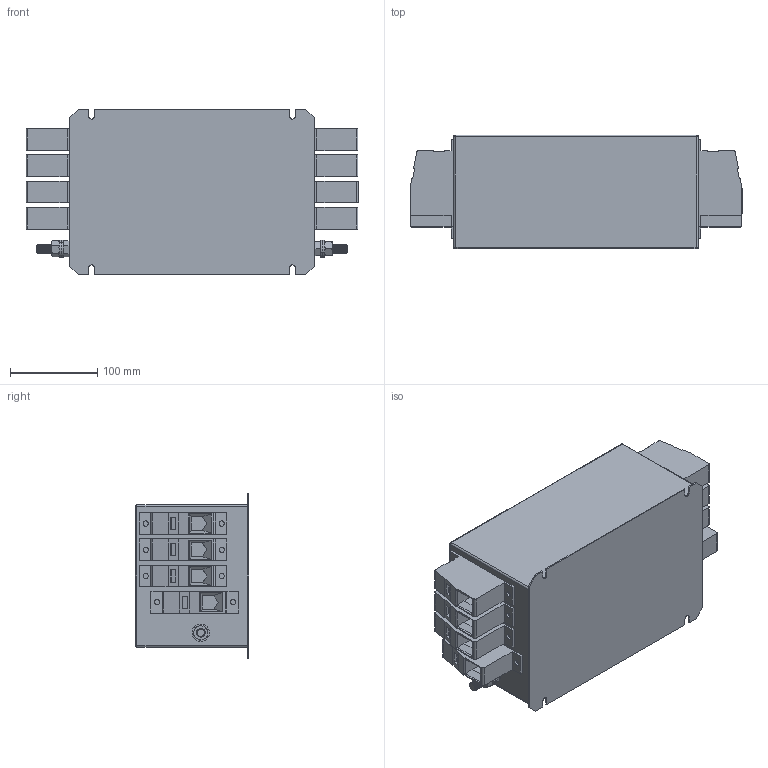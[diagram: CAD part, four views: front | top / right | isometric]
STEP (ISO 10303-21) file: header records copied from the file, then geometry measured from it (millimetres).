
FILE_DESCRIPTION (( 'STEP AP203' ), '1' );
FILE_NAME ('NF-4-160-FTR.STEP', '2018-02-12T14:50:31', ( '' ), ( '' ), 'SwSTEP 2.0', 'SolidWorks 2017', '' );
FILE_SCHEMA (( 'CONFIG_CONTROL_DESIGN' ));
Length unit declared in the file: millimetre
Products named in the file (7): hex nut style 1_am_B18.2.4.1M - Hex nut, Style 1,  M10 x 1.5, with 16mm WAF --D-N; M10x30 Earth post; FTR-160; flat washer narrow_am_B18.22M - Plain washer, 10 mm, narrow; hex screw_am_B18.6.7M - M10 x 1.5 x 30 Indented HHMS --30S; HDFK-95; NF-4-160-FTR
Assembly tree (15 placements, depth 3):
  NF-4-160-FTR
    FTR-160
    M10x30 Earth post  x2
      flat washer narrow_am_B18.22M - Plain washer, 10 mm, narrow
      hex nut style 1_am_B18.2.4.1M - Hex nut, Style 1,  M10 x 1.5, with 16mm WAF --D-N
      hex screw_am_B18.6.7M - M10 x 1.5 x 30 Indented HHMS --30S
    HDFK-95  x8
Bounding box: 380 x 130 x 190 mm (x, y, z)
Volume: 6367736.6 mm3; surface area: 553042.9 mm2
Topology: 18 solids, 18 shells, 1064 faces, 2708 edges, 1736 vertices
Faces by surface type: plane 632, cylinder 228, cone 200, sphere 4
Entity records: 10677 total; most frequent: CARTESIAN_POINT 1844, DIRECTION 1728, ORIENTED_EDGE 1600, EDGE_CURVE 800, AXIS2_PLACEMENT_3D 630, VERTEX_POINT 506, LINE 468, VECTOR 468
